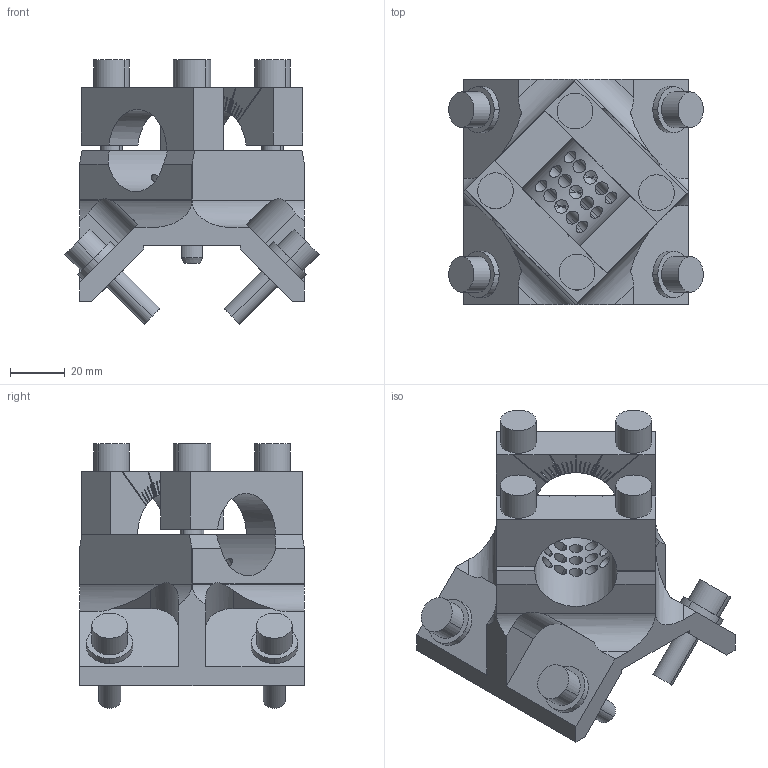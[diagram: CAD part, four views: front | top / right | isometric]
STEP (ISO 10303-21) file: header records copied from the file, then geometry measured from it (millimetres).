
FILE_DESCRIPTION(('STEP AP214'),'1');
FILE_NAME('EGT101_1706209_80RD30-X45_RE.CATPart.stp','2015-09-14T13:07:49',('3D-Tool'),(' '),'Spatial InterOp 3D',' ',' ');
FILE_SCHEMA(('automotive_design'));
Length unit declared in the file: millimetre
Products named in the file (12): EGT101_1706209_80RD30-X45_RE|VGT101_80RD30-X45_RE|Bohrbearbeitung; EGT101_1706209_80RD30-X45_RE|EGT205_SCHELLE_RD30_1|Assemble.81; EGT101_1706209_80RD30-X45_RE|EGT205_SCHELLE_RD30_2|Assemble.82; 1; 2; 3; 4; EGT101_1706209_80RD30-X45_RE|EGT_212_ZENTRIERSTIFT|Pocket.9; 5; 6; 7; 8
Bounding box: 92.77 x 82 x 96.36 mm (x, y, z)
Volume: 177609.8 mm3; surface area: 56675.6 mm2
Topology: 12 solids, 12 shells, 491 faces, 1266 edges, 757 vertices
Faces by surface type: plane 216, cylinder 181, cone 94
Entity records: 19739 total; most frequent: CARTESIAN_POINT 4080, ORIENTED_EDGE 2380, DIRECTION 2356, EDGE_CURVE 1190, AXIS2_PLACEMENT_3D 849, VERTEX_POINT 757, LINE 658, VECTOR 658
